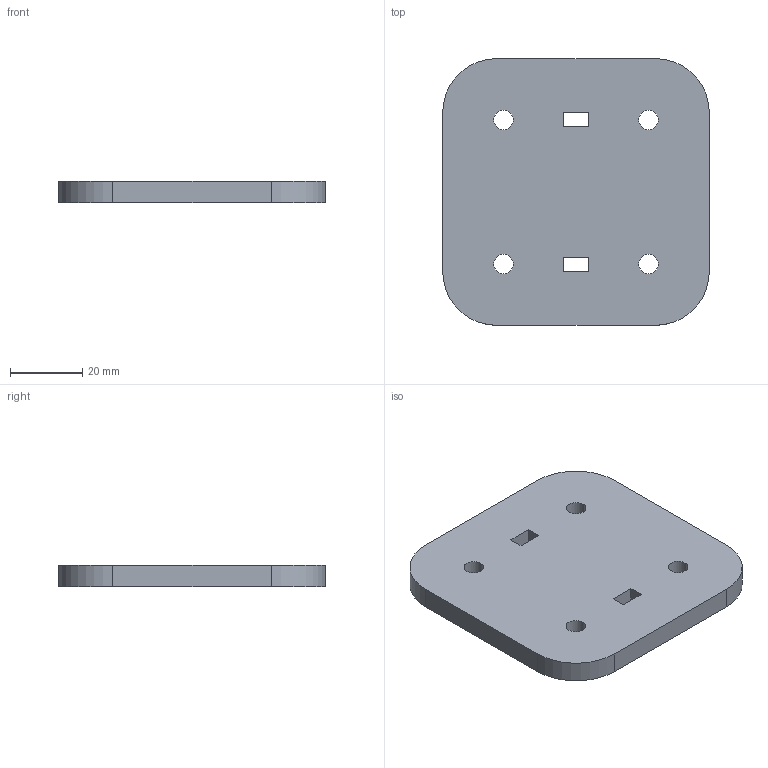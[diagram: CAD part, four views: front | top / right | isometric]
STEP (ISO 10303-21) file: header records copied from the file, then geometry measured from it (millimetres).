
FILE_DESCRIPTION (( 'STEP AP203' ), '1' );
FILE_NAME ('PlantCarriageBase.step', '2026-08-22T11:38:51', ( '' ), ( '' ), 'SwSTEP 2.0', 'SolidWorks 2026', '' );
FILE_SCHEMA (( 'CONFIG_CONTROL_DESIGN' ));
Length unit declared in the file: millimetre
Products named in the file (1): PlantCarriageBase
Bounding box: 74 x 74 x 6 mm (x, y, z)
Volume: 30811.5 mm3; surface area: 12563.1 mm2
Topology: 1 solids, 1 shells, 26 faces, 72 edges, 48 vertices
Faces by surface type: plane 14, cylinder 12
Entity records: 941 total; most frequent: DIRECTION 150, CARTESIAN_POINT 147, ORIENTED_EDGE 144, EDGE_CURVE 72, AXIS2_PLACEMENT_3D 51, VERTEX_POINT 48, LINE 48, VECTOR 48
